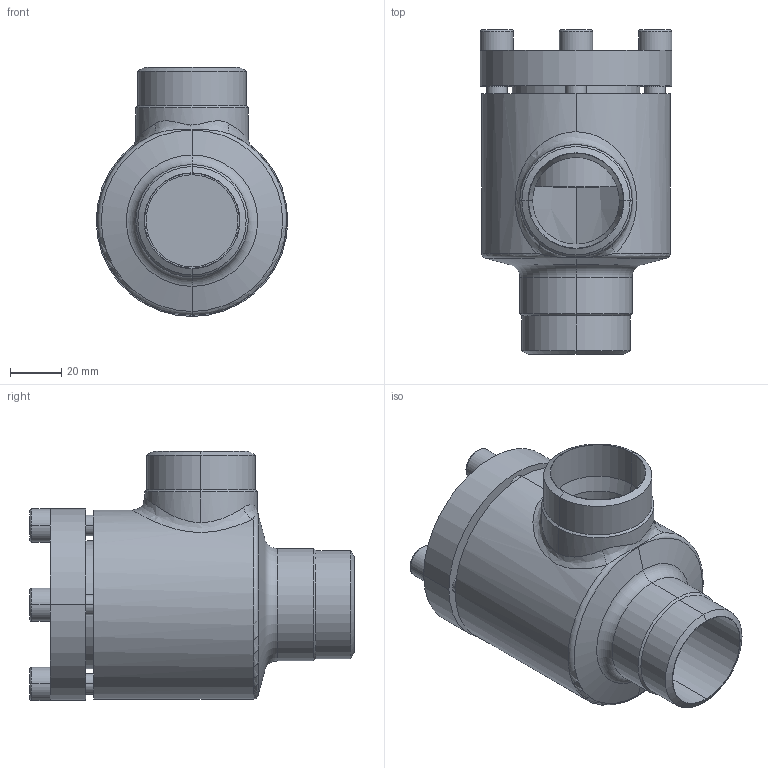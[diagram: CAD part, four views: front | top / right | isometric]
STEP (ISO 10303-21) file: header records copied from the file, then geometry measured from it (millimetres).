
FILE_DESCRIPTION (( 'STEP AP214' ), '1' );
FILE_NAME ('RV28400D13-DN032_R1_PS40.STEP', '2006-04-28T05:26:10', ( 'Herr Grams' ), ( 'AWP GmbH' ), 'SwSTEP 2.0', 'SolidWorks 2002296', '' );
FILE_SCHEMA (( 'AUTOMOTIVE_DESIGN' ));
Length unit declared in the file: millimetre
Products named in the file (5): RV28400D13-DN032_R1_PS40; RV28300E13_Deck+Schr-DN25-32_Standard; Deckel28300E13-DN25-32_Standard; Zylinderschraube-DIN912_M 8x 25; Gehäuse16400-DN032_Standard
Assembly tree (7 placements, depth 3):
  RV28400D13-DN032_R1_PS40
    RV28300E13_Deck+Schr-DN25-32_Standard
      Zylinderschraube-DIN912_M 8x 25  x4
      Deckel28300E13-DN25-32_Standard
    Gehäuse16400-DN032_Standard
Bounding box: 75 x 127 x 97.5 mm (x, y, z)
Volume: 275967.4 mm3; surface area: 70051.1 mm2
Topology: 6 solids, 6 shells, 136 faces, 294 edges, 182 vertices
Faces by surface type: plane 50, cylinder 50, cone 22, torus 12, bspline 2
Entity records: 12445 total; most frequent: CARTESIAN_POINT 10095, DIRECTION 446, ORIENTED_EDGE 360, AXIS2_PLACEMENT_3D 187, EDGE_CURVE 180, VERTEX_POINT 110, EDGE_LOOP 100, CIRCLE 96
